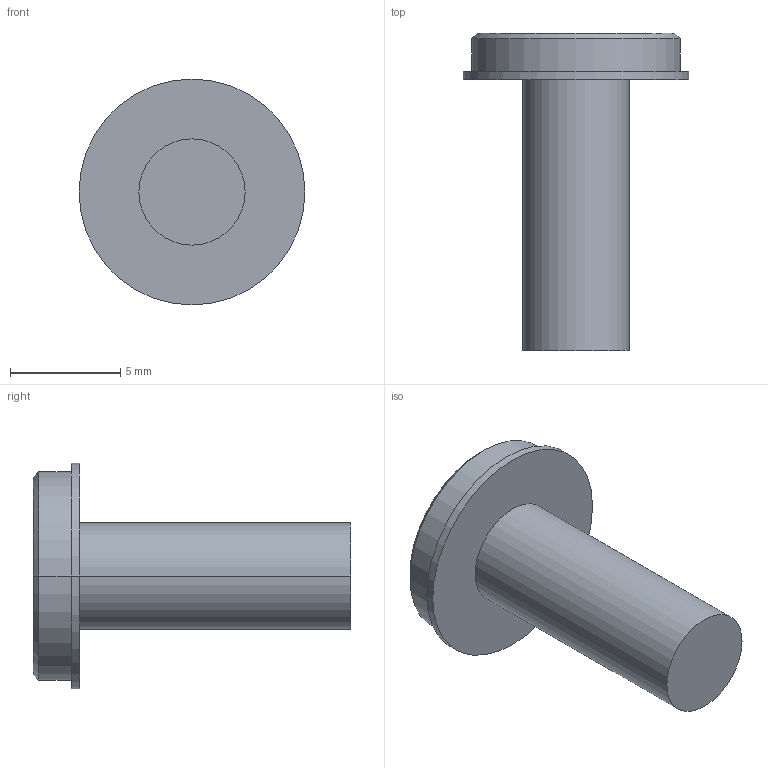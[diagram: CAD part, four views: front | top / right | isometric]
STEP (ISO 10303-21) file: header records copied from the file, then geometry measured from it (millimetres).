
FILE_DESCRIPTION((''),'2;1');
FILE_NAME('10-32X1-2PPHSEM','2020-05-26T13:21:34',('dking'),('Keithley Instruments'),'CREO PARAMETRIC BY PTC INC, 2019080','CREO PARAMETRIC BY PTC INC, 2019080','');
FILE_SCHEMA(('AUTOMOTIVE_DESIGN { 1 0 10303 214 1 1 1 1 }'));
Length unit declared in the file: inch
Products named in the file (1): 10-32X1-2PPHSEM
Bounding box: 10.26 x 14.43 x 10.26 mm (x, y, z)
Volume: 373.2 mm3; surface area: 426.3 mm2
Topology: 1 solids, 1 shells, 29 faces, 70 edges, 46 vertices
Faces by surface type: plane 17, cylinder 10, cone 2
Entity records: 1477 total; most frequent: COLOUR_RGB 190, DIRECTION 180, CARTESIAN_POINT 168, ORIENTED_EDGE 140, EDGE_CURVE 70, AXIS2_PLACEMENT_3D 61, VECTOR 55, LINE 55
